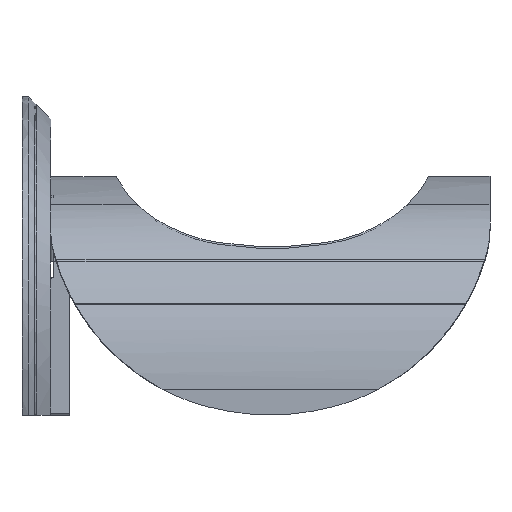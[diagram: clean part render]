
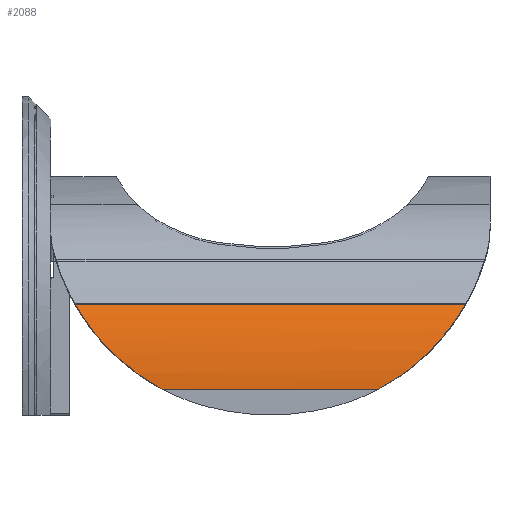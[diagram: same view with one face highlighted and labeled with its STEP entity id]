
A CAD part, left-side view. The second image highlights one B-rep face of the part: STEP entity #2088.
In plain terms, the highlighted cylindrical face has radius 320.879 mm (diameter 641.758 mm), a partial arc.
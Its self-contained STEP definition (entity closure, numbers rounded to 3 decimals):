
#267 = ORIENTED_EDGE ( 'NONE', *, *, #1326, .F. ) ;
#316 = ORIENTED_EDGE ( 'NONE', *, *, #7384, .T. ) ;
#712 = CARTESIAN_POINT ( 'NONE',  ( -480., 516.662, 40. ) ) ;
#962 = CARTESIAN_POINT ( 'NONE',  ( -472.094, 87.566, 110.936 ) ) ;
#1027 = LINE ( 'NONE', #5084, #6166 ) ;
#1268 = FACE_OUTER_BOUND ( 'NONE', #3487, .T. ) ;
#1273 = CARTESIAN_POINT ( 'NONE',  ( -461.481, 638.127, 147.686 ) ) ;
#1326 = EDGE_CURVE ( 'NONE', #8857, #7426, #10202, .T. ) ;
#1635 = CARTESIAN_POINT ( 'NONE',  ( -465.869, 68.182, 134.174 ) ) ;
#2008 = CARTESIAN_POINT ( 'NONE',  ( -465.869, 628.182, 134.174 ) ) ;
#2050 = CARTESIAN_POINT ( 'NONE',  ( -474.764, 100.351, 97.771 ) ) ;
#2088 = ADVANCED_FACE ( 'NONE', ( #1268 ), #8766, .T. ) ;
#2165 = CARTESIAN_POINT ( 'NONE',  ( -453.262, 651.427, 168.468 ) ) ;
#2199 = CARTESIAN_POINT ( 'NONE',  ( -477.845, 573.248, 77.341 ) ) ;
#2596 = EDGE_CURVE ( 'NONE', #9917, #8285, #1027, .T. ) ;
#2683 = DIRECTION ( 'NONE',  ( 0., 0., -1. ) ) ;
#2783 = CARTESIAN_POINT ( 'NONE',  ( -473.502, 93.879, 104.288 ) ) ;
#2811 = CARTESIAN_POINT ( 'NONE',  ( -480., 516.662, 40. ) ) ;
#3173 = CARTESIAN_POINT ( 'NONE',  ( -465.869, 628.182, 134.174 ) ) ;
#3238 = CARTESIAN_POINT ( 'NONE',  ( -450., 655.36, 175.472 ) ) ;
#3330 = AXIS2_PLACEMENT_3D ( 'NONE', #6882, #9976, #2683 ) ;
#3487 = EDGE_LOOP ( 'NONE', ( #4620, #267, #316, #4170, #5396, #9819 ) ) ;
#3623 = CARTESIAN_POINT ( 'NONE',  ( -478.943, 558.607, 66.089 ) ) ;
#3689 = CARTESIAN_POINT ( 'NONE',  ( -479.642, 543.363, 55.549 ) ) ;
#3827 = VECTOR ( 'NONE', #11506, 1000. ) ;
#4004 = CARTESIAN_POINT ( 'NONE',  ( -465.869, 68.182, 134.174 ) ) ;
#4080 = CARTESIAN_POINT ( 'NONE',  ( -479.235, 142.837, 62.405 ) ) ;
#4165 = CARTESIAN_POINT ( 'NONE',  ( -476.814, 582.622, 85.285 ) ) ;
#4170 = ORIENTED_EDGE ( 'NONE', *, *, #12184, .F. ) ;
#4247 = CARTESIAN_POINT ( 'NONE',  ( -465.869, 628.182, 134.174 ) ) ;
#4620 = ORIENTED_EDGE ( 'NONE', *, *, #10061, .F. ) ;
#4835 = CARTESIAN_POINT ( 'NONE',  ( -480., 522.14, 42.874 ) ) ;
#5084 = CARTESIAN_POINT ( 'NONE',  ( -450., 724.5, 175.472 ) ) ;
#5396 = ORIENTED_EDGE ( 'NONE', *, *, #9509, .F. ) ;
#5413 = CARTESIAN_POINT ( 'NONE',  ( -456.204, 647.193, 161.489 ) ) ;
#5903 = CARTESIAN_POINT ( 'NONE',  ( -467.336, 71.833, 129.398 ) ) ;
#5972 = CARTESIAN_POINT ( 'NONE',  ( -475.147, 102.548, 95.638 ) ) ;
#6088 = CARTESIAN_POINT ( 'NONE',  ( -450., 41.005, 175.472 ) ) ;
#6166 = VECTOR ( 'NONE', #8455, 1000. ) ;
#6780 = CARTESIAN_POINT ( 'NONE',  ( -456.204, 49.171, 161.489 ) ) ;
#6882 = CARTESIAN_POINT ( 'NONE',  ( -159.121, 724.5, 40. ) ) ;
#7004 = CARTESIAN_POINT ( 'NONE',  ( -479.215, 553.588, 62.498 ) ) ;
#7314 = CARTESIAN_POINT ( 'NONE',  ( -463.815, 633.297, 140.866 ) ) ;
#7349 = CARTESIAN_POINT ( 'NONE',  ( -471.145, 613.037, 115.405 ) ) ;
#7384 = EDGE_CURVE ( 'NONE', #8857, #9517, #8305, .T. ) ;
#7426 = VERTEX_POINT ( 'NONE', #4247 ) ;
#7660 = B_SPLINE_CURVE_WITH_KNOTS ( 'NONE', 3,
 ( #4004, #5903, #11204, #12010, #962, #2783, #12208, #2050, #5972, #13150, #8935, #13289, #11137, #11006, #4080, #8203, #10077, #10012 ),
 .UNSPECIFIED., .F., .F.,
 ( 4, 2, 2, 2, 2, 2, 2, 2, 4 ),
 ( 0., 0.019, 0.037, 0.046, 0.056, 0.074, 0.093, 0.111, 0.148 ),
 .UNSPECIFIED. ) ;
#7825 = CARTESIAN_POINT ( 'NONE',  ( -479.961, 527.539, 45.9 ) ) ;
#8203 = CARTESIAN_POINT ( 'NONE',  ( -479.847, 158.164, 52.07 ) ) ;
#8227 = CARTESIAN_POINT ( 'NONE',  ( -478.269, 568.451, 73.494 ) ) ;
#8285 = VERTEX_POINT ( 'NONE', #12542 ) ;
#8305 = LINE ( 'NONE', #12060, #3827 ) ;
#8331 = B_SPLINE_CURVE_WITH_KNOTS ( 'NONE', 3,
 ( #6088, #13266, #6780, #9120, #10873, #1635 ),
 .UNSPECIFIED., .F., .F.,
 ( 4, 2, 4 ),
 ( 0., 0.026, 0.052 ),
 .UNSPECIFIED. ) ;
#8455 = DIRECTION ( 'NONE',  ( 0., -1., 0. ) ) ;
#8766 = CYLINDRICAL_SURFACE ( 'NONE', #3330, 320.879 ) ;
#8857 = VERTEX_POINT ( 'NONE', #2811 ) ;
#8935 = CARTESIAN_POINT ( 'NONE',  ( -476.82, 113.794, 85.239 ) ) ;
#8958 = CARTESIAN_POINT ( 'NONE',  ( -479.782, 538.149, 52.237 ) ) ;
#9120 = CARTESIAN_POINT ( 'NONE',  ( -461.481, 58.238, 147.685 ) ) ;
#9168 = CARTESIAN_POINT ( 'NONE',  ( -476.206, 587.199, 89.382 ) ) ;
#9509 = EDGE_CURVE ( 'NONE', #8285, #11055, #8331, .T. ) ;
#9517 = VERTEX_POINT ( 'NONE', #13197 ) ;
#9719 = CARTESIAN_POINT ( 'NONE',  ( -465.869, 68.182, 134.174 ) ) ;
#9819 = ORIENTED_EDGE ( 'NONE', *, *, #2596, .F. ) ;
#9917 = VERTEX_POINT ( 'NONE', #11582 ) ;
#9920 = B_SPLINE_CURVE_WITH_KNOTS ( 'NONE', 3,
 ( #3173, #7314, #1273, #5413, #2165, #3238 ),
 .UNSPECIFIED., .F., .F.,
 ( 4, 2, 4 ),
 ( 0., 0.026, 0.052 ),
 .UNSPECIFIED. ) ;
#9976 = DIRECTION ( 'NONE',  ( 0., -1., 0. ) ) ;
#10012 = CARTESIAN_POINT ( 'NONE',  ( -480., 179.703, 40. ) ) ;
#10061 = EDGE_CURVE ( 'NONE', #7426, #9917, #9920, .T. ) ;
#10077 = CARTESIAN_POINT ( 'NONE',  ( -480., 168.749, 45.747 ) ) ;
#10202 = B_SPLINE_CURVE_WITH_KNOTS ( 'NONE', 3,
 ( #712, #4835, #7825, #8958, #3689, #12099, #7004, #3623, #11092, #8227, #2199, #4165, #9168, #13245, #13174, #7349, #12363, #2008 ),
 .UNSPECIFIED., .F., .F.,
 ( 4, 2, 2, 2, 2, 2, 2, 2, 4 ),
 ( 0., 0.019, 0.037, 0.046, 0.056, 0.074, 0.093, 0.111, 0.148 ),
 .UNSPECIFIED. ) ;
#10873 = CARTESIAN_POINT ( 'NONE',  ( -463.815, 63.067, 140.866 ) ) ;
#11006 = CARTESIAN_POINT ( 'NONE',  ( -478.967, 137.818, 65.993 ) ) ;
#11055 = VERTEX_POINT ( 'NONE', #9719 ) ;
#11092 = CARTESIAN_POINT ( 'NONE',  ( -478.789, 561.088, 67.916 ) ) ;
#11137 = CARTESIAN_POINT ( 'NONE',  ( -478.274, 127.972, 73.449 ) ) ;
#11204 = CARTESIAN_POINT ( 'NONE',  ( -468.659, 75.63, 124.691 ) ) ;
#11506 = DIRECTION ( 'NONE',  ( 0., -1., 0. ) ) ;
#11582 = CARTESIAN_POINT ( 'NONE',  ( -450., 655.36, 175.472 ) ) ;
#12010 = CARTESIAN_POINT ( 'NONE',  ( -471.037, 83.496, 115.462 ) ) ;
#12060 = CARTESIAN_POINT ( 'NONE',  ( -480., 724.5, 40. ) ) ;
#12099 = CARTESIAN_POINT ( 'NONE',  ( -479.334, 551.048, 60.734 ) ) ;
#12184 = EDGE_CURVE ( 'NONE', #11055, #9517, #7660, .T. ) ;
#12208 = CARTESIAN_POINT ( 'NONE',  ( -473.942, 96.018, 102.095 ) ) ;
#12363 = CARTESIAN_POINT ( 'NONE',  ( -468.803, 620.879, 124.618 ) ) ;
#12542 = CARTESIAN_POINT ( 'NONE',  ( -450., 41.005, 175.472 ) ) ;
#13150 = CARTESIAN_POINT ( 'NONE',  ( -476.214, 109.225, 89.328 ) ) ;
#13174 = CARTESIAN_POINT ( 'NONE',  ( -473.956, 600.46, 102.152 ) ) ;
#13197 = CARTESIAN_POINT ( 'NONE',  ( -480., 179.703, 40. ) ) ;
#13245 = CARTESIAN_POINT ( 'NONE',  ( -474.775, 596.129, 97.827 ) ) ;
#13266 = CARTESIAN_POINT ( 'NONE',  ( -453.262, 44.937, 168.468 ) ) ;
#13289 = CARTESIAN_POINT ( 'NONE',  ( -477.85, 123.167, 77.299 ) ) ;
